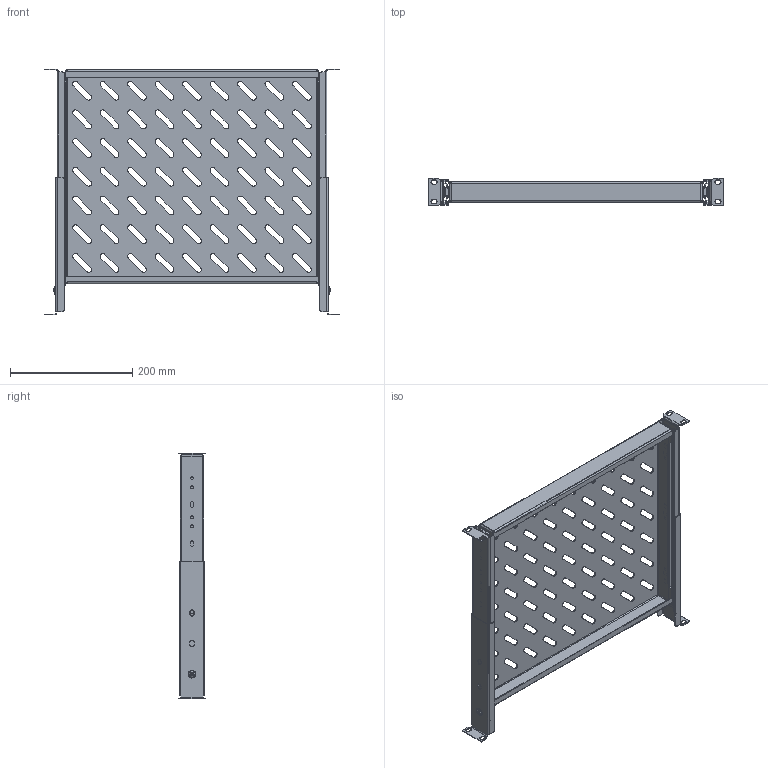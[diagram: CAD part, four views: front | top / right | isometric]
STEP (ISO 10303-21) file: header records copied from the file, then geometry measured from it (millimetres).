
FILE_DESCRIPTION (( 'STEP AP214' ), '1' );
FILE_NAME ('SH 48.35 IÌ Ïîëêà 19'''' âûäâèæíàÿ (400 ìì).STEP', '2022-08-17T13:22:20', ( '' ), ( '' ), 'SwSTEP 2.0', 'SolidWorks 2018', '' );
FILE_SCHEMA (( 'AUTOMOTIVE_DESIGN' ));
Length unit declared in the file: millimetre
Products named in the file (1): SH 48.35 IÌ Ïîëêà 19'''' âûäâèæíàÿ (400 ìì)
Bounding box: 482.6 x 43.6 x 402.8 mm (x, y, z)
Volume: 437709.6 mm3; surface area: 685669.7 mm2
Topology: 13 solids, 13 shells, 1134 faces, 2893 edges, 1778 vertices
Faces by surface type: plane 637, cylinder 473, cone 8, torus 8, sphere 4, bspline 4
Entity records: 47149 total; most frequent: DIRECTION 6127, CARTESIAN_POINT 6030, ORIENTED_EDGE 5778, EDGE_CURVE 2889, AXIS2_PLACEMENT_3D 2115, LINE 1897, VECTOR 1897, VERTEX_POINT 1778
